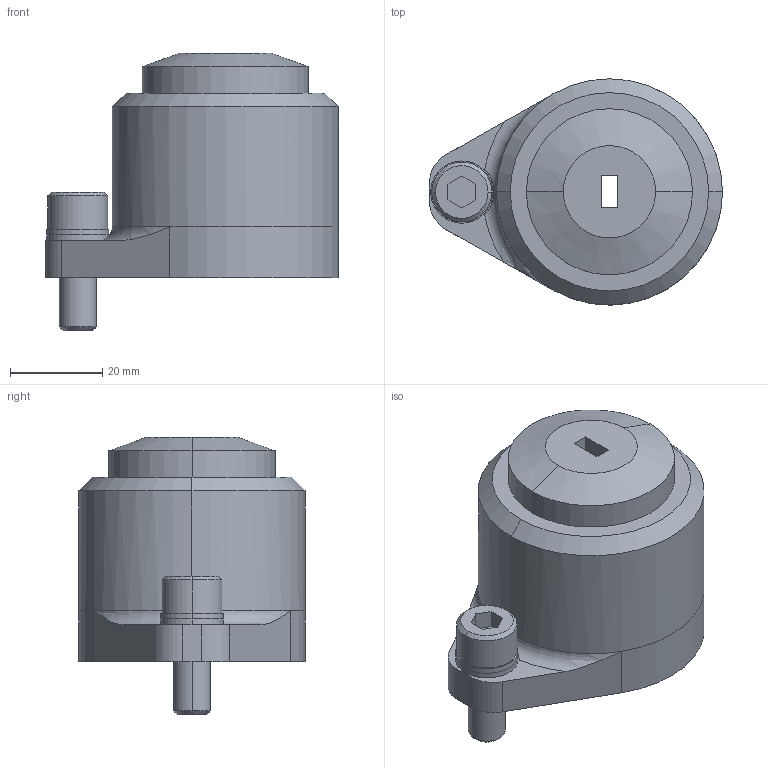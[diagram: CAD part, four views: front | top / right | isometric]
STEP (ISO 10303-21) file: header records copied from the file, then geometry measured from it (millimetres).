
FILE_DESCRIPTION(/* description */ (''),/* implementation_level */ '2;1');
FILE_NAME(/* name */ '3d_sprd13-g-p7.00-w3.50-k0_05419_r00.stp',/* time_stamp */ '2011-01-10T14:10:06+09:00',/* author */ ('MISUMI'),/* organization */ (''),/* preprocessor_version */ 'ST-DEVELOPER v11',/* originating_system */ 'UGS - NX 5.0',/* authorisation */ '');
FILE_SCHEMA (('CONFIG_CONTROL_DESIGN'));
Length unit declared in the file: millimetre
Products named in the file (1): 3d_sprd13-g-p7.00-w3.50-k0_05419_r00
Bounding box: 63.5 x 49 x 60.1 mm (x, y, z)
Volume: 77527.7 mm3; surface area: 30829.9 mm2
Topology: 6 solids, 6 shells, 76 faces, 170 edges, 110 vertices
Faces by surface type: cylinder 36, plane 30, cone 8, torus 2
Entity records: 2250 total; most frequent: DIRECTION 404, CARTESIAN_POINT 377, ORIENTED_EDGE 340, EDGE_CURVE 170, AXIS2_PLACEMENT_3D 161, VERTEX_POINT 110, EDGE_LOOP 92, CIRCLE 84
